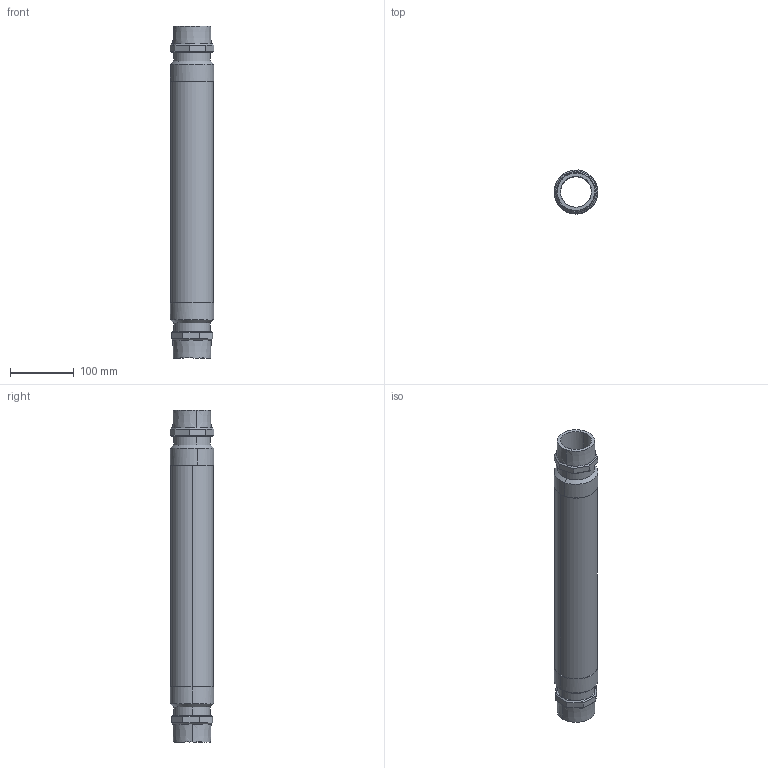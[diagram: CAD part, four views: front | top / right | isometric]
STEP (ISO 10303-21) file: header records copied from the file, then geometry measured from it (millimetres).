
FILE_DESCRIPTION (( 'STEP AP203' ), '1' );
FILE_NAME ('KP_TN50-4S.step', '2011-08-08T11:47:49', ( '' ), ( '' ), 'SwSTEP 2.0', 'SolidWorks 2011', '' );
FILE_SCHEMA (( 'CONFIG_CONTROL_DESIGN' ));
Length unit declared in the file: millimetre
Products named in the file (1): KP_TN50-4S
Bounding box: 68.3 x 68.3 x 520 mm (x, y, z)
Volume: 723982 mm3; surface area: 195980.8 mm2
Topology: 1 solids, 1 shells, 100 faces, 232 edges, 140 vertices
Faces by surface type: plane 72, cylinder 16, cone 12
Entity records: 3345 total; most frequent: CARTESIAN_POINT 1065, ORIENTED_EDGE 464, DIRECTION 438, EDGE_CURVE 232, LINE 156, VECTOR 156, AXIS2_PLACEMENT_3D 141, VERTEX_POINT 140
